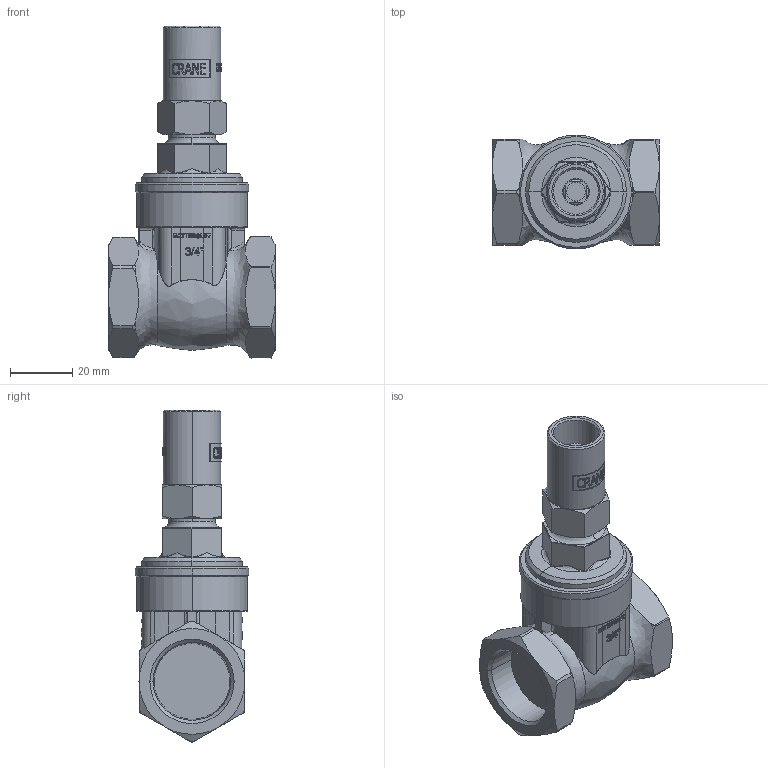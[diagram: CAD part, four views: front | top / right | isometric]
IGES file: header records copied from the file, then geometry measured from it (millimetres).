
Global section: file name: No Iges File Name specified; native system: AutoDesk Inventor R12.0; preprocessor: AutoDesk Inventor Iges Exporter R12.0; date: 20110311.090650; units: millimetre
Bounding box: 53.5 x 36.5 x 106.42 mm (x, y, z)
Volume: 71044.4 mm3; surface area: 17783.3 mm2
Topology: 1 solids, 1 shells, 958 faces, 2546 edges, 1634 vertices
Faces by surface type: bspline 385, plane 368, cylinder 123, revolution 32, cone 32, torus 18
